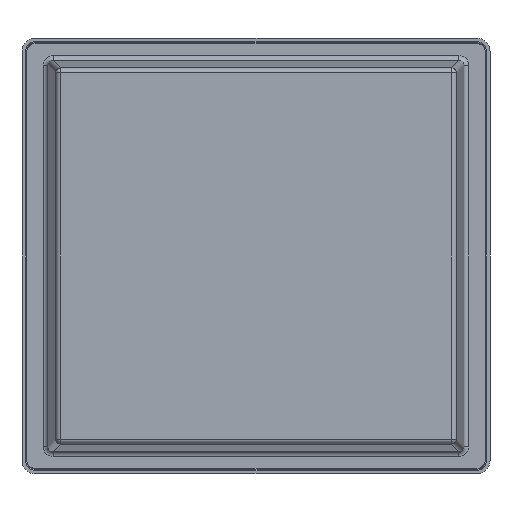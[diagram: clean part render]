
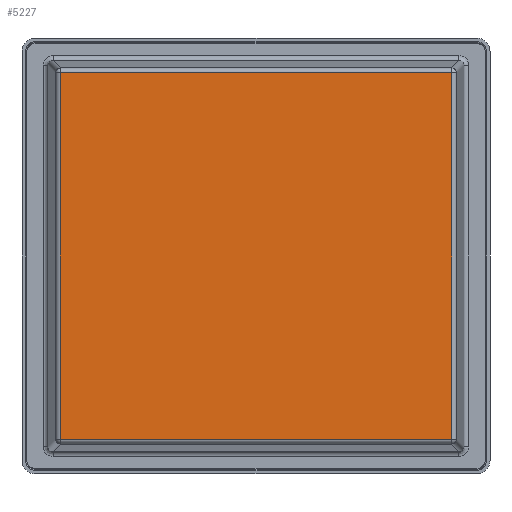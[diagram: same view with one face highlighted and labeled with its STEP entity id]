
A CAD part, front view. The second image highlights one B-rep face of the part: STEP entity #5227.
In plain terms, the highlighted planar face has unit normal (0, -1, 0).
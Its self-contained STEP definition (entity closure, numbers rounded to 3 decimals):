
#264 = ORIENTED_EDGE ( 'NONE', *, *, #3399, .T. ) ;
#265 = ORIENTED_EDGE ( 'NONE', *, *, #3400, .T. ) ;
#266 = ORIENTED_EDGE ( 'NONE', *, *, #3401, .T. ) ;
#267 = ORIENTED_EDGE ( 'NONE', *, *, #3402, .T. ) ;
#527 = AXIS2_PLACEMENT_3D ( 'NONE', #2421, #2425, #2426 ) ;
#1375 = EDGE_LOOP ( 'NONE', ( #264, #265, #266, #267 ) ) ;
#2207 = CARTESIAN_POINT ( 'NONE',  ( 400., 0., -365.343 ) ) ;
#2209 = CARTESIAN_POINT ( 'NONE',  ( -390.343, 0., -375. ) ) ;
#2211 = DIRECTION ( 'NONE',  ( 0., 0., -1. ) ) ;
#2212 = DIRECTION ( 'NONE',  ( 1., 0., 0. ) ) ;
#2213 = CARTESIAN_POINT ( 'NONE',  ( 390.343, 0., -375. ) ) ;
#2214 = DIRECTION ( 'NONE',  ( 0., 0., 1. ) ) ;
#2215 = CARTESIAN_POINT ( 'NONE',  ( 400., 0., 365.343 ) ) ;
#2216 = DIRECTION ( 'NONE',  ( -1., 0., 0. ) ) ;
#2408 = CARTESIAN_POINT ( 'NONE',  ( -390.343, 0., 365.343 ) ) ;
#2409 = CARTESIAN_POINT ( 'NONE',  ( -390.343, 0., -365.343 ) ) ;
#2412 = CARTESIAN_POINT ( 'NONE',  ( 390.343, 0., -365.343 ) ) ;
#2413 = CARTESIAN_POINT ( 'NONE',  ( 390.343, 0., 365.343 ) ) ;
#2421 = CARTESIAN_POINT ( 'NONE',  ( 400., 0., -375. ) ) ;
#2423 = PLANE ( 'NONE',  #527 ) ;
#2425 = DIRECTION ( 'NONE',  ( 0., 1., 0. ) ) ;
#2426 = DIRECTION ( 'NONE',  ( -1., 0., 0. ) ) ;
#3399 = EDGE_CURVE ( 'NONE', #4331, #4332, #4868, .T. ) ;
#3400 = EDGE_CURVE ( 'NONE', #4332, #4335, #4880, .T. ) ;
#3401 = EDGE_CURVE ( 'NONE', #4335, #4336, #4882, .T. ) ;
#3402 = EDGE_CURVE ( 'NONE', #4336, #4331, #4884, .T. ) ;
#4331 = VERTEX_POINT ( 'NONE', #2408 ) ;
#4332 = VERTEX_POINT ( 'NONE', #2409 ) ;
#4335 = VERTEX_POINT ( 'NONE', #2412 ) ;
#4336 = VERTEX_POINT ( 'NONE', #2413 ) ;
#4868 = LINE ( 'NONE', #2209, #4878 ) ;
#4878 = VECTOR ( 'NONE', #2211, 1000. ) ;
#4880 = LINE ( 'NONE', #2207, #4883 ) ;
#4882 = LINE ( 'NONE', #2213, #4885 ) ;
#4883 = VECTOR ( 'NONE', #2212, 1000. ) ;
#4884 = LINE ( 'NONE', #2215, #4887 ) ;
#4885 = VECTOR ( 'NONE', #2214, 1000. ) ;
#4887 = VECTOR ( 'NONE', #2216, 1000. ) ;
#4945 = FACE_OUTER_BOUND ( 'NONE', #1375, .T. ) ;
#5227 = ADVANCED_FACE ( 'NONE', ( #4945 ), #2423, .F. ) ;
